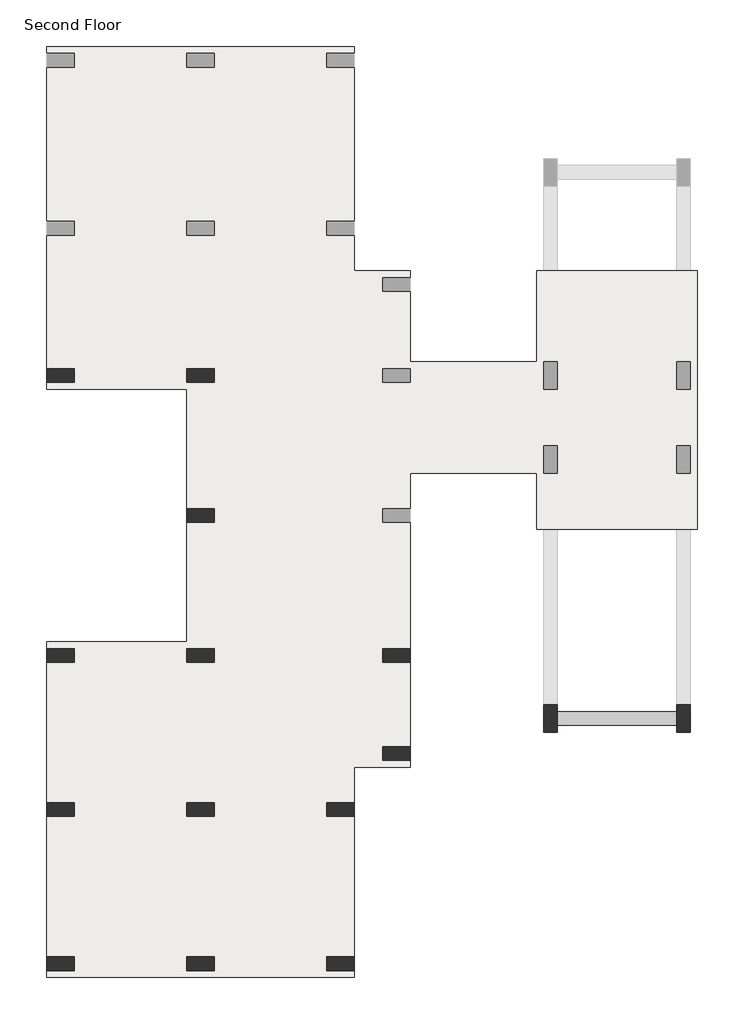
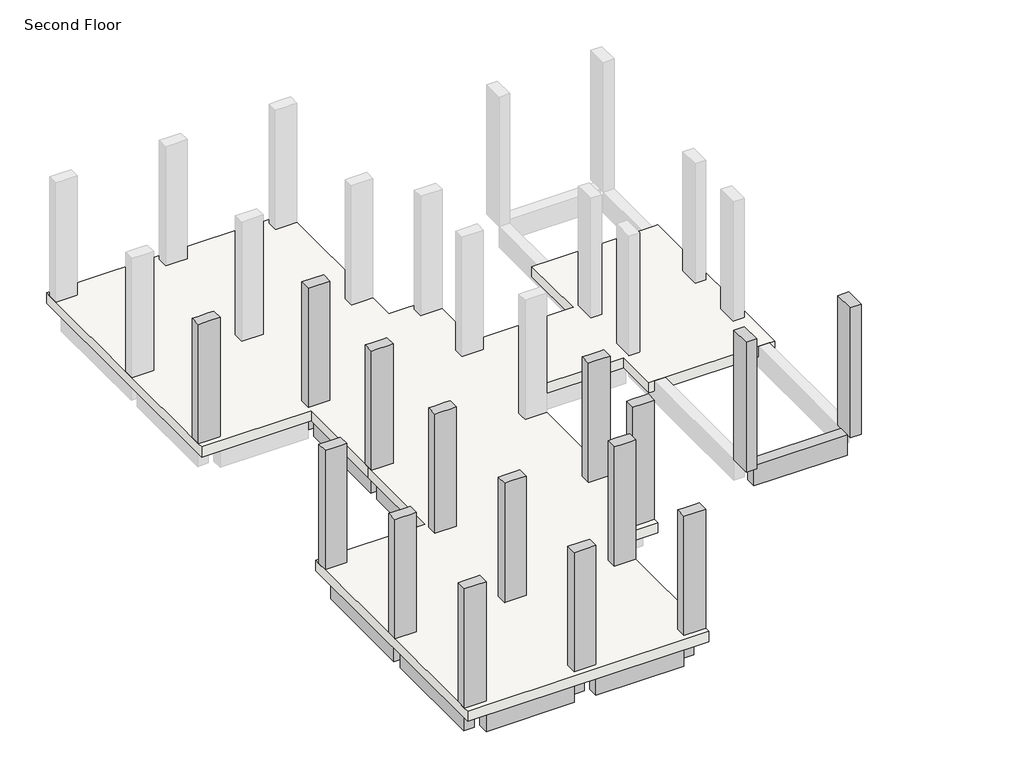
# One storey, part 1 of 2: 15 columns, 8 beams, 1 slab.
"""IFC4 building model written with IfcOpenShell, lengths in millimetres."""

from ifc_helpers import new_model, si_unit, frame, origin, place, context, project, spatial, polyline, outline, extrude, faceted_brep, element, save

model = new_model("IFC4")

# Units and contexts
model_context = context("Model", 3, world=origin())
ifc_project = project(units=[si_unit("LENGTHUNIT", "METRE", prefix="MILLI")], contexts=[model_context])

# Site, building, storey
site = spatial("IfcSite", under=ifc_project)
building = spatial("IfcBuilding", under=site)
storey = spatial("IfcBuildingStorey", under=building, Name="Second Floor", Elevation=3810.0)

# Beams
placement = place(None, origin())
element("IfcBeam", 1, ObjectType="M_Concrete-Rectangular Beam : 300 x 600mm", at=placement, inside=storey, context=model_context, shape_type="Brep", body=[
    faceted_brep([(-10964.7526929, 13007.19569, 3510.0), (-11114.7526929, 13007.19569, 3510.0), (-11114.7526929, 9649.59569, 3510.0), (-10814.7526929, 9649.59569, 3510.0), (-10814.7526929, 13007.19569, 3510.0), (-10814.7526929, 13157.19569, 3510.0), (-10964.7526929, 13157.19569, 3510.0), (-11114.7526929, 9649.59569, 2910.0), (-11114.7526929, 13007.19569, 2910.0), (-10814.7526929, 9649.59569, 2910.0), (-10814.7526929, 13007.19569, 2910.0), (-10814.7526929, 13007.19569, 3505.2), (-10814.7526929, 13157.19569, 3505.2), (-10964.7526929, 13007.19569, 3505.2), (-10964.7526929, 13157.19569, 3505.2)], [[[0, 1, 2, 3, 4, 5, 6]], [[7, 2, 1, 8]], [[9, 7, 8, 10]], [[3, 9, 10, 11, 12, 5, 4]], [[1, 0, 13, 11, 10, 8]], [[11, 13, 14, 12]], [[7, 9, 3, 2]], [[6, 5, 12, 14]], [[0, 6, 14, 13]]]),
    faceted_brep([(-10814.7526929, 9349.59569, 2910.0), (-11114.7526929, 9349.59569, 2910.0), (-11114.7526929, 9349.59569, 3510.0), (-10814.7526929, 9349.59569, 3510.0), (-10814.7526929, 6449.19569, 2910.0), (-10814.7526929, 6449.19569, 3510.0), (-11114.7526929, 6449.19569, 3510.0), (-11114.7526929, 6449.19569, 2910.0)], [[[0, 1, 2, 3]], [[4, 5, 6, 7]], [[2, 1, 7, 6]], [[0, 3, 5, 4]], [[1, 0, 4, 7]], [[3, 2, 6, 5]]]),
    faceted_brep([(-11114.7526929, 3401.19569, 2910.0), (-11114.7526929, 6149.19569, 2910.0), (-10814.7526929, 6149.19569, 2910.0), (-10814.7526929, 3401.19569, 2910.0), (-11114.7526929, 6149.19569, 3510.0), (-10814.7526929, 6149.19569, 3510.0), (-10814.7526929, 3401.19569, 3505.2), (-11114.7526929, 3401.19569, 3505.2), (-11114.7526929, 3101.19569, 3505.2), (-10814.7526929, 3101.19569, 3505.2), (-10814.7526929, 3101.19569, 2910.0), (-11114.7526929, 3101.19569, 2910.0), (-10814.7526929, 353.19569, 3505.2), (-11114.7526929, 353.19569, 3505.2), (-11114.7526929, 353.19569, 2910.0), (-10814.7526929, 353.19569, 2910.0), (-11114.7526929, 53.19569, 3505.2), (-10814.7526929, 53.19569, 3505.2), (-10814.7526929, 53.19569, 2910.0), (-11114.7526929, 53.19569, 2910.0), (-10814.7526929, -2999.60431, 3505.2), (-11114.7526929, -2999.60431, 3505.2), (-11114.7526929, -2999.60431, 2910.0), (-10814.7526929, -2999.60431, 2910.0), (-11114.7526929, -3299.60431, 3505.2), (-10814.7526929, -3299.60431, 3505.2), (-10814.7526929, -3299.60431, 2910.0), (-11114.7526929, -3299.60431, 2910.0), (-11114.7526929, -6352.40431, 2910.0), (-10814.7526929, -6352.40431, 2910.0), (-10814.7526929, -6352.40431, 3510.0), (-11114.7526929, -6352.40431, 3510.0), (-11114.7526929, 353.19569, 3510.0), (-11114.7526929, 53.19569, 3510.0), (-11114.7526929, -2999.60431, 3510.0), (-11114.7526929, -3299.60431, 3510.0), (-10814.7526929, -3299.60431, 3510.0), (-10814.7526929, -2999.60431, 3510.0), (-10814.7526929, 53.19569, 3510.0), (-10814.7526929, 353.19569, 3510.0)], [[[0, 1, 2, 3]], [[1, 4, 5, 2]], [[6, 7, 0, 3]], [[8, 9, 10, 11]], [[7, 6, 9, 8]], [[12, 13, 14, 15]], [[16, 17, 18, 19]], [[13, 12, 17, 16]], [[20, 21, 22, 23]], [[24, 25, 26, 27]], [[21, 20, 25, 24]], [[28, 29, 30, 31]], [[5, 4, 32, 33, 34, 35, 31, 30, 36, 37, 38, 39]], [[0, 7, 8, 11, 14, 13, 16, 19, 22, 21, 24, 27, 28, 31, 35, 34, 33, 32, 4, 1]], [[6, 3, 2, 5, 39, 38, 37, 36, 30, 29, 26, 25, 20, 23, 18, 17, 12, 15, 10, 9]], [[28, 27, 26, 29]], [[14, 11, 10, 15]], [[22, 19, 18, 23]]]),
])
element("IfcBeam", 2, ObjectType="M_Concrete-Rectangular Beam : 300 x 600mm", at=placement, inside=storey, context=model_context, shape_type="Brep", body=[
    faceted_brep([(-13862.7526929, -6502.40431, 3510.0), (-13862.7526929, -6352.40431, 3510.0), (-13862.7526929, -3299.60431, 3510.0), (-13862.7526929, -2999.60431, 3510.0), (-13862.7526929, 53.19569, 3510.0), (-13862.7526929, 203.19569, 3510.0), (-14012.7526929, 203.19569, 3510.0), (-14162.7526929, 203.19569, 3510.0), (-14162.7526929, -6502.40431, 3510.0), (-14012.7526929, -6502.40431, 3510.0), (-14162.7526929, 203.19569, 3505.2), (-14162.7526929, 53.19569, 3505.2), (-14162.7526929, 53.19569, 2910.0), (-14162.7526929, -2999.60431, 2910.0), (-14162.7526929, -2999.60431, 3505.2), (-14162.7526929, -3299.60431, 3505.2), (-14162.7526929, -3299.60431, 2910.0), (-14162.7526929, -6352.40431, 2910.0), (-14162.7526929, -6352.40431, 3505.2), (-14162.7526929, -6502.40431, 3505.2), (-13862.7526929, 53.19569, 2910.0), (-13862.7526929, -2999.60431, 2910.0), (-13862.7526929, -6502.40431, 3505.2), (-13862.7526929, -6352.40431, 3505.2), (-13862.7526929, -6352.40431, 2910.0), (-13862.7526929, -3299.60431, 2910.0), (-13862.7526929, -3299.60431, 3505.2), (-13862.7526929, -2999.60431, 3505.2), (-13862.7526929, 53.19569, 3505.2), (-13862.7526929, 203.19569, 3505.2), (-14012.7526929, 203.19569, 3505.2), (-14012.7526929, -6502.40431, 3505.2)], [[[0, 1, 2, 3, 4, 5, 6, 7, 8, 9]], [[8, 7, 10, 11, 12, 13, 14, 15, 16, 17, 18, 19]], [[12, 20, 21, 13]], [[5, 4, 3, 2, 1, 0, 22, 23, 24, 25, 26, 27, 21, 20, 28, 29]], [[11, 28, 20, 12]], [[28, 11, 10, 30, 29]], [[27, 14, 13, 21]], [[15, 26, 25, 16]], [[14, 27, 26, 15]], [[16, 25, 24, 17]], [[23, 18, 17, 24]], [[18, 23, 22, 31, 19]], [[7, 6, 5, 29, 30, 10]], [[0, 9, 8, 19, 31, 22]]]),
])
element("IfcBeam", 3, ObjectType="M_Concrete-Rectangular Beam : 300 x 600mm", at=placement, inside=storey, context=model_context, shape_type="Brep", body=[
    faceted_brep([(-13862.7526929, 203.19569, 3510.0), (-13862.7526929, 53.19569, 3510.0), (-11114.7526929, 53.19569, 3510.0), (-11114.7526929, 353.19569, 3510.0), (-14012.7526929, 353.19569, 3510.0), (-14012.7526929, 203.19569, 3510.0), (-13862.7526929, 53.19569, 3505.2), (-13712.7526929, 53.19569, 3505.2), (-13712.7526929, 53.19569, 2910.0), (-11264.7526929, 53.19569, 2910.0), (-11264.7526929, 53.19569, 3505.2), (-11114.7526929, 53.19569, 3505.2), (-13712.7526929, 353.19569, 2910.0), (-11264.7526929, 353.19569, 2910.0), (-13862.7526929, 203.19569, 3505.2), (-13712.7526929, 353.19569, 3505.2), (-14012.7526929, 203.19569, 3505.2), (-14012.7526929, 353.19569, 3505.2), (-11264.7526929, 353.19569, 3505.2), (-11114.7526929, 353.19569, 3505.2)], [[[0, 1, 2, 3, 4, 5]], [[1, 6, 7, 8, 9, 10, 11, 2]], [[8, 12, 13, 9]], [[1, 0, 14, 6]], [[7, 15, 12, 8]], [[15, 7, 6, 14, 16, 17]], [[18, 10, 9, 13]], [[10, 18, 19, 11]], [[3, 2, 11, 19]], [[12, 15, 17, 4, 3, 19, 18, 13]], [[5, 4, 17, 16]], [[0, 5, 16, 14]]]),
    faceted_brep([(-10664.7526929, 353.19569, 2910.0), (-10664.7526929, 353.19569, 3505.2), (-10814.7526929, 353.19569, 3505.2), (-10814.7526929, 353.19569, 3510.0), (-6847.5526929, 353.19569, 3510.0), (-6847.5526929, 353.19569, 3505.2), (-6997.5526929, 353.19569, 3505.2), (-6997.5526929, 353.19569, 2910.0), (-10664.7526929, 53.19569, 3505.2), (-10664.7526929, 53.19569, 2910.0), (-6997.5526929, 53.19569, 2910.0), (-6997.5526929, 53.19569, 3505.2), (-6847.5526929, 53.19569, 3505.2), (-10814.7526929, 53.19569, 3510.0), (-10814.7526929, 53.19569, 3505.2), (-6847.5526929, 53.19569, 3510.0)], [[[0, 1, 2, 3, 4, 5, 6, 7]], [[8, 1, 0, 9]], [[9, 0, 7, 10]], [[6, 11, 10, 7]], [[11, 6, 5, 12]], [[13, 3, 2, 14]], [[3, 13, 15, 4]], [[8, 9, 10, 11, 12, 15, 13, 14]], [[1, 8, 14, 2]], [[5, 4, 15, 12]]]),
])
element("IfcBeam", 4, ObjectType="M_Concrete-Rectangular Beam : 300 x 600mm", at=placement, inside=storey, context=model_context, shape_type="Brep", body=[
    faceted_brep([(-6847.5526929, -1930.40431, 3510.0), (-6847.5526929, -1780.40431, 3510.0), (-8066.7526929, -1780.40431, 3510.0), (-8066.7526929, -2080.40431, 3510.0), (-7766.7526929, -2080.40431, 3510.0), (-6697.5526929, -2080.40431, 3510.0), (-6697.5526929, -1930.40431, 3510.0), (-8066.7526929, -1780.40431, 2910.0), (-6847.5526929, -1780.40431, 3505.2), (-6997.5526929, -1780.40431, 3505.2), (-6997.5526929, -1780.40431, 2910.0), (-8066.7526929, -2080.40431, 2910.0), (-6997.5526929, -2080.40431, 2910.0), (-7766.7526929, -2080.40431, 2910.0), (-6997.5526929, -2080.40431, 3505.2), (-6697.5526929, -2080.40431, 3505.2), (-6847.5526929, -1930.40431, 3505.2), (-6697.5526929, -1930.40431, 3505.2)], [[[0, 1, 2, 3, 4, 5, 6]], [[7, 2, 1, 8, 9, 10]], [[11, 7, 10, 12, 13]], [[5, 4, 3, 11, 13, 12, 14, 15]], [[1, 0, 16, 8]], [[9, 14, 12, 10]], [[14, 9, 8, 16, 17, 15]], [[6, 5, 15, 17]], [[3, 2, 7, 11]], [[0, 6, 17, 16]]]),
])
element("IfcBeam", 5, ObjectType="M_Concrete-Rectangular Beam : 300 x 600mm", at=placement, inside=storey, context=model_context, shape_type="Brep", body=[
    faceted_brep([(-7766.7526929, -2080.40431, 3510.0), (-8066.7526929, -2080.40431, 3510.0), (-8066.7526929, -2999.60431, 3510.0), (-8066.7526929, -3299.60431, 3510.0), (-8066.7526929, -6352.40431, 3510.0), (-8066.7526929, -6502.40431, 3510.0), (-7916.7526929, -6502.40431, 3510.0), (-7766.7526929, -6502.40431, 3510.0), (-8066.7526929, -2999.60431, 2910.0), (-8066.7526929, -2999.60431, 3505.2), (-8066.7526929, -3299.60431, 3505.2), (-8066.7526929, -3299.60431, 2910.0), (-8066.7526929, -6352.40431, 2910.0), (-8066.7526929, -6352.40431, 3505.2), (-8066.7526929, -6502.40431, 3505.2), (-8066.7526929, -2080.40431, 2910.0), (-7766.7526929, -2080.40431, 2910.0), (-7766.7526929, -2999.60431, 2910.0), (-7766.7526929, -6502.40431, 3505.2), (-7766.7526929, -6352.40431, 3505.2), (-7766.7526929, -6352.40431, 2910.0), (-7766.7526929, -3299.60431, 2910.0), (-7766.7526929, -3299.60431, 3505.2), (-7766.7526929, -2999.60431, 3505.2), (-7916.7526929, -6502.40431, 3505.2)], [[[0, 1, 2, 3, 4, 5, 6, 7]], [[8, 9, 10, 11, 12, 13, 14, 5, 4, 3, 2, 1, 15]], [[15, 16, 17, 8]], [[16, 0, 7, 18, 19, 20, 21, 22, 23, 17]], [[1, 0, 16, 15]], [[23, 9, 8, 17]], [[10, 22, 21, 11]], [[9, 23, 22, 10]], [[11, 21, 20, 12]], [[19, 13, 12, 20]], [[13, 19, 18, 24, 14]], [[7, 6, 5, 14, 24, 18]]]),
])
element("IfcBeam", 6, ObjectType="M_Concrete-Rectangular Beam : 300 x 600mm", at=placement, inside=storey, context=model_context, shape_type="Brep", body=[
    faceted_brep([(-14012.7526929, -6652.40431, 3510.0), (-7916.7526929, -6652.40431, 3510.0), (-7916.7526929, -6502.40431, 3510.0), (-8066.7526929, -6502.40431, 3510.0), (-8066.7526929, -6352.40431, 3510.0), (-10814.7526929, -6352.40431, 3510.0), (-11114.7526929, -6352.40431, 3510.0), (-13862.7526929, -6352.40431, 3510.0), (-13862.7526929, -6502.40431, 3510.0), (-14012.7526929, -6502.40431, 3510.0), (-13862.7526929, -6352.40431, 3505.2), (-8066.7526929, -6352.40431, 3505.2), (-8216.7526929, -6352.40431, 3505.2), (-8216.7526929, -6352.40431, 2910.0), (-10664.7526929, -6352.40431, 2910.0), (-10664.7526929, -6352.40431, 3505.2), (-11264.7526929, -6352.40431, 3505.2), (-11264.7526929, -6352.40431, 2910.0), (-13712.7526929, -6352.40431, 2910.0), (-13712.7526929, -6352.40431, 3505.2), (-10664.7526929, -6652.40431, 2910.0), (-8216.7526929, -6652.40431, 2910.0), (-14012.7526929, -6652.40431, 3505.2), (-13712.7526929, -6652.40431, 3505.2), (-13712.7526929, -6652.40431, 2910.0), (-11264.7526929, -6652.40431, 2910.0), (-11264.7526929, -6652.40431, 3505.2), (-10664.7526929, -6652.40431, 3505.2), (-8216.7526929, -6652.40431, 3505.2), (-7916.7526929, -6652.40431, 3505.2), (-13862.7526929, -6502.40431, 3505.2), (-8066.7526929, -6502.40431, 3505.2), (-14012.7526929, -6502.40431, 3505.2), (-7916.7526929, -6502.40431, 3505.2)], [[[0, 1, 2, 3, 4, 5, 6, 7, 8, 9]], [[10, 7, 6, 5, 4, 11, 12, 13, 14, 15, 16, 17, 18, 19]], [[20, 14, 13, 21]], [[1, 0, 22, 23, 24, 25, 26, 27, 20, 21, 28, 29]], [[8, 7, 10, 30]], [[4, 3, 31, 11]], [[23, 19, 18, 24]], [[19, 23, 22, 32, 30, 10]], [[27, 15, 14, 20]], [[16, 26, 25, 17]], [[15, 27, 26, 16]], [[24, 18, 17, 25]], [[12, 28, 21, 13]], [[28, 12, 11, 31, 33, 29]], [[0, 9, 32, 22]], [[2, 1, 29, 33]], [[9, 8, 30, 32]], [[3, 2, 33, 31]]]),
])
element("IfcBeam", 7, ObjectType="M_Concrete-Rectangular Beam : 300 x 600mm", at=placement, inside=storey, context=model_context, shape_type="SweptSolid", body=[
    extrude(outline(polyline([(3510.0, -13862.7526929), (3505.2, -13862.7526929), (3505.2, -13712.7526929), (2910.0, -13712.7526929), (2910.0, -11264.7526929), (3505.2, -11264.7526929), (3505.2, -11114.7526929), (3510.0, -11114.7526929), (3510.0, -13862.7526929)])), frame((0.0, -3299.60431, 0.0), z_axis=(0.0, 1.0, 0.0), x_axis=(0.0, 0.0, 1.0)), (0.0, 0.0, 1.0), 300.0),
    extrude(outline(polyline([(3505.2, -10664.7526929), (2910.0, -10664.7526929), (2910.0, -8216.7526929), (3505.2, -8216.7526929), (3505.2, -8066.7526929), (3510.0, -8066.7526929), (3510.0, -10814.7526929), (3505.2, -10814.7526929), (3505.2, -10664.7526929)])), frame((0.0, -3299.60431, 0.0), z_axis=(0.0, 1.0, 0.0), x_axis=(0.0, 0.0, 1.0)), (0.0, 0.0, 1.0), 300.0),
])
element("IfcBeam", 8, ObjectType="M_Concrete-Rectangular Beam : 300 x 600mm", at=placement, inside=storey, context=model_context, shape_type="SweptSolid", body=[
    extrude(outline(polyline([(-3194.7526929, -1318.40431), (-3194.7526929, -1018.40431), (-599.1526929, -1018.40431), (-599.1526929, -1318.40431), (-3194.7526929, -1318.40431)])), frame((0.0, 0.0, 3210.0), z_axis=(0.0, 0.0, 1.0), x_axis=(1.0, 0.0, 0.0)), (0.0, 0.0, 1.0), 600.0),
])

# Columns
element("IfcColumn", 9, ObjectType="M_Concrete-Rectangular-Column : 300 x 600mm", at=placement, inside=storey, context=model_context, shape_type="Brep", body=[
    faceted_brep([(-11264.7526929, 6449.19569, 3810.0), (-10664.7526929, 6449.19569, 3810.0), (-10664.7526929, 6149.19569, 3810.0), (-11264.7526929, 6149.19569, 3810.0), (-11264.7526929, 6449.19569, 7315.2), (-10664.7526929, 6449.19569, 7315.2), (-10664.7526929, 6449.19569, 6720.0), (-11264.7526929, 6449.19569, 6720.0), (-10664.7526929, 6149.19569, 7315.2), (-10664.7526929, 6149.19569, 6720.0), (-11264.7526929, 6149.19569, 7315.2), (-11264.7526929, 6149.19569, 6720.0)], [[[0, 1, 2, 3]], [[4, 5, 6, 1, 0, 7]], [[5, 8, 9, 2, 1, 6]], [[8, 10, 11, 3, 2, 9]], [[10, 4, 7, 0, 3, 11]], [[4, 10, 8, 5]]]),
])
element("IfcColumn", 10, ObjectType="M_Concrete-Rectangular-Column : 300 x 600mm", at=placement, inside=storey, context=model_context, shape_type="Brep", body=[
    faceted_brep([(-14312.7526929, 6449.19569, 3810.0), (-13712.7526929, 6449.19569, 3810.0), (-13712.7526929, 6149.19569, 3810.0), (-14312.7526929, 6149.19569, 3810.0), (-14312.7526929, 6449.19569, 7315.2), (-14162.7526929, 6449.19569, 7315.2), (-13862.7526929, 6449.19569, 7315.2), (-13712.7526929, 6449.19569, 7315.2), (-13712.7526929, 6449.19569, 6720.0), (-13712.7526929, 6149.19569, 7315.2), (-13712.7526929, 6149.19569, 6720.0), (-14012.7526929, 6149.19569, 7315.2), (-14312.7526929, 6149.19569, 7315.2)], [[[0, 1, 2, 3]], [[4, 5, 6, 7, 8, 1, 0]], [[7, 9, 10, 2, 1, 8]], [[9, 11, 12, 3, 2, 10]], [[12, 4, 0, 3]], [[4, 12, 11, 9, 7, 6, 5]]]),
])
element("IfcColumn", 11, ObjectType="M_Concrete-Rectangular-Column : 300 x 600mm", at=placement, inside=storey, context=model_context, shape_type="Brep", body=[
    faceted_brep([(-11264.7526929, 3401.19569, 3810.0), (-10664.7526929, 3401.19569, 3810.0), (-10664.7526929, 3101.19569, 3810.0), (-11264.7526929, 3101.19569, 3810.0), (-11264.7526929, 3251.19569, 3810.0), (-11264.7526929, 3401.19569, 7315.2), (-11114.7526929, 3401.19569, 7315.2), (-10814.7526929, 3401.19569, 7315.2), (-10664.7526929, 3401.19569, 7315.2), (-10664.7526929, 3101.19569, 7315.2), (-10814.7526929, 3101.19569, 7315.2), (-11114.7526929, 3101.19569, 7315.2), (-11264.7526929, 3101.19569, 7315.2)], [[[0, 1, 2, 3, 4]], [[5, 6, 7, 8, 1, 0]], [[8, 9, 2, 1]], [[9, 10, 11, 12, 3, 2]], [[12, 5, 0, 4, 3]], [[5, 12, 11, 10, 9, 8, 7, 6]]]),
])
element("IfcColumn", 12, ObjectType="M_Concrete-Rectangular-Column : 300 x 600mm", at=placement, inside=storey, context=model_context, shape_type="Brep", body=[
    faceted_brep([(-14312.7526929, 353.19569, 3810.0), (-13712.7526929, 353.19569, 3810.0), (-13712.7526929, 53.19569, 3810.0), (-14312.7526929, 53.19569, 3810.0), (-14312.7526929, 353.19569, 7315.2), (-14012.7526929, 353.19569, 7315.2), (-13712.7526929, 353.19569, 7315.2), (-13712.7526929, 353.19569, 6720.0), (-13712.7526929, 53.19569, 7315.2), (-13712.7526929, 53.19569, 6720.0), (-13862.7526929, 53.19569, 7315.2), (-14162.7526929, 53.19569, 7315.2), (-14312.7526929, 53.19569, 7315.2)], [[[0, 1, 2, 3]], [[4, 5, 6, 7, 1, 0]], [[6, 8, 9, 2, 1, 7]], [[8, 10, 11, 12, 3, 2, 9]], [[12, 4, 0, 3]], [[4, 12, 11, 10, 8, 6, 5]]]),
])
element("IfcColumn", 13, ObjectType="M_Concrete-Rectangular-Column : 300 x 600mm", at=placement, inside=storey, context=model_context, shape_type="Brep", body=[
    faceted_brep([(-11264.7526929, 353.19569, 3810.0), (-10664.7526929, 353.19569, 3810.0), (-10664.7526929, 53.19569, 3810.0), (-11264.7526929, 53.19569, 3810.0), (-11264.7526929, 353.19569, 7315.2), (-11114.7526929, 353.19569, 7315.2), (-10814.7526929, 353.19569, 7315.2), (-10664.7526929, 353.19569, 7315.2), (-10664.7526929, 353.19569, 6720.0), (-11264.7526929, 353.19569, 6720.0), (-10664.7526929, 53.19569, 7315.2), (-10664.7526929, 53.19569, 6720.0), (-10814.7526929, 53.19569, 7315.2), (-11114.7526929, 53.19569, 7315.2), (-11264.7526929, 53.19569, 7315.2), (-11264.7526929, 53.19569, 6720.0)], [[[0, 1, 2, 3]], [[4, 5, 6, 7, 8, 1, 0, 9]], [[7, 10, 11, 2, 1, 8]], [[10, 12, 13, 14, 15, 3, 2, 11]], [[14, 4, 9, 0, 3, 15]], [[4, 14, 13, 12, 10, 7, 6, 5]]]),
])
element("IfcColumn", 14, ObjectType="M_Concrete-Rectangular-Column : 300 x 600mm", at=placement, inside=storey, context=model_context, shape_type="Brep", body=[
    faceted_brep([(-6997.5526929, 353.19569, 3810.0), (-6397.5526929, 353.19569, 3810.0), (-6397.5526929, 53.19569, 3810.0), (-6997.5526929, 53.19569, 3810.0), (-6997.5526929, 353.19569, 7315.2), (-6847.5526929, 353.19569, 7315.2), (-6547.5526929, 353.19569, 7315.2), (-6397.5526929, 353.19569, 7315.2), (-6997.5526929, 353.19569, 6720.0), (-6397.5526929, 53.19569, 7315.2), (-6547.5526929, 53.19569, 7315.2), (-6847.5526929, 53.19569, 7315.2), (-6997.5526929, 53.19569, 7315.2), (-6997.5526929, 53.19569, 6720.0)], [[[0, 1, 2, 3]], [[4, 5, 6, 7, 1, 0, 8]], [[7, 9, 2, 1]], [[9, 10, 11, 12, 13, 3, 2]], [[12, 4, 8, 0, 3, 13]], [[4, 12, 11, 10, 9, 7, 6, 5]]]),
])
element("IfcColumn", 15, ObjectType="M_Concrete-Rectangular-Column : 300 x 600mm", at=placement, inside=storey, context=model_context, shape_type="Brep", body=[
    faceted_brep([(-6997.5526929, -1780.40431, 3810.0), (-6397.5526929, -1780.40431, 3810.0), (-6397.5526929, -2080.40431, 3810.0), (-6997.5526929, -2080.40431, 3810.0), (-6997.5526929, -1780.40431, 7315.2), (-6847.5526929, -1780.40431, 7315.2), (-6547.5526929, -1780.40431, 7315.2), (-6397.5526929, -1780.40431, 7315.2), (-6997.5526929, -1780.40431, 6720.0), (-6397.5526929, -2080.40431, 7315.2), (-6697.5526929, -2080.40431, 7315.2), (-6997.5526929, -2080.40431, 7315.2), (-6997.5526929, -2080.40431, 6720.0)], [[[0, 1, 2, 3]], [[4, 5, 6, 7, 1, 0, 8]], [[7, 9, 2, 1]], [[9, 10, 11, 12, 3, 2]], [[11, 4, 8, 0, 3, 12]], [[4, 11, 10, 9, 7, 6, 5]]]),
])
element("IfcColumn", 16, ObjectType="M_Concrete-Rectangular-Column : 300 x 600mm", at=placement, inside=storey, context=model_context, shape_type="Brep", body=[
    faceted_brep([(-14312.7526929, -2999.60431, 3810.0), (-13712.7526929, -2999.60431, 3810.0), (-13712.7526929, -3299.60431, 3810.0), (-14312.7526929, -3299.60431, 3810.0), (-14312.7526929, -2999.60431, 7315.2), (-14162.7526929, -2999.60431, 7315.2), (-13862.7526929, -2999.60431, 7315.2), (-13712.7526929, -2999.60431, 7315.2), (-13712.7526929, -2999.60431, 6720.0), (-13712.7526929, -3299.60431, 7315.2), (-13712.7526929, -3299.60431, 6720.0), (-13862.7526929, -3299.60431, 7315.2), (-14162.7526929, -3299.60431, 7315.2), (-14312.7526929, -3299.60431, 7315.2)], [[[0, 1, 2, 3]], [[4, 5, 6, 7, 8, 1, 0]], [[7, 9, 10, 2, 1, 8]], [[9, 11, 12, 13, 3, 2, 10]], [[13, 4, 0, 3]], [[4, 13, 12, 11, 9, 7, 6, 5]]]),
])
element("IfcColumn", 17, ObjectType="M_Concrete-Rectangular-Column : 300 x 600mm", at=placement, inside=storey, context=model_context, shape_type="Brep", body=[
    faceted_brep([(-11264.7526929, -2999.60431, 3810.0), (-10664.7526929, -2999.60431, 3810.0), (-10664.7526929, -3299.60431, 3810.0), (-11264.7526929, -3299.60431, 3810.0), (-11264.7526929, -2999.60431, 7315.2), (-11114.7526929, -2999.60431, 7315.2), (-10814.7526929, -2999.60431, 7315.2), (-10664.7526929, -2999.60431, 7315.2), (-10664.7526929, -2999.60431, 6720.0), (-11264.7526929, -2999.60431, 6720.0), (-10664.7526929, -3299.60431, 7315.2), (-10664.7526929, -3299.60431, 6720.0), (-10814.7526929, -3299.60431, 7315.2), (-11114.7526929, -3299.60431, 7315.2), (-11264.7526929, -3299.60431, 7315.2), (-11264.7526929, -3299.60431, 6720.0)], [[[0, 1, 2, 3]], [[4, 5, 6, 7, 8, 1, 0, 9]], [[7, 10, 11, 2, 1, 8]], [[10, 12, 13, 14, 15, 3, 2, 11]], [[14, 4, 9, 0, 3, 15]], [[4, 14, 13, 12, 10, 7, 6, 5]]]),
])
element("IfcColumn", 18, ObjectType="M_Concrete-Rectangular-Column : 300 x 600mm", at=placement, inside=storey, context=model_context, shape_type="Brep", body=[
    faceted_brep([(-8216.7526929, -2999.60431, 3810.0), (-7616.7526929, -2999.60431, 3810.0), (-7616.7526929, -3299.60431, 3810.0), (-8216.7526929, -3299.60431, 3810.0), (-8216.7526929, -2999.60431, 7315.2), (-8066.7526929, -2999.60431, 7315.2), (-7766.7526929, -2999.60431, 7315.2), (-7616.7526929, -2999.60431, 7315.2), (-8216.7526929, -2999.60431, 6720.0), (-7616.7526929, -3299.60431, 7315.2), (-7766.7526929, -3299.60431, 7315.2), (-8066.7526929, -3299.60431, 7315.2), (-8216.7526929, -3299.60431, 7315.2), (-8216.7526929, -3299.60431, 6720.0)], [[[0, 1, 2, 3]], [[4, 5, 6, 7, 1, 0, 8]], [[7, 9, 2, 1]], [[9, 10, 11, 12, 13, 3, 2]], [[12, 4, 8, 0, 3, 13]], [[4, 12, 11, 10, 9, 7, 6, 5]]]),
])
element("IfcColumn", 19, ObjectType="M_Concrete-Rectangular-Column : 300 x 600mm", at=placement, inside=storey, context=model_context, shape_type="Brep", body=[
    faceted_brep([(-14312.7526929, -6352.40431, 3810.0), (-13712.7526929, -6352.40431, 3810.0), (-13712.7526929, -6652.40431, 3810.0), (-14312.7526929, -6652.40431, 3810.0), (-14312.7526929, -6352.40431, 7315.2), (-14162.7526929, -6352.40431, 7315.2), (-13862.7526929, -6352.40431, 7315.2), (-13712.7526929, -6352.40431, 7315.2), (-13712.7526929, -6352.40431, 6720.0), (-13712.7526929, -6652.40431, 7315.2), (-13712.7526929, -6652.40431, 6720.0), (-14012.7526929, -6652.40431, 7315.2), (-14312.7526929, -6652.40431, 7315.2)], [[[0, 1, 2, 3]], [[4, 5, 6, 7, 8, 1, 0]], [[7, 9, 10, 2, 1, 8]], [[9, 11, 12, 3, 2, 10]], [[12, 4, 0, 3]], [[4, 12, 11, 9, 7, 6, 5]]]),
])
element("IfcColumn", 20, ObjectType="M_Concrete-Rectangular-Column : 300 x 600mm", at=placement, inside=storey, context=model_context, shape_type="Brep", body=[
    faceted_brep([(-11264.7526929, -6352.40431, 3810.0), (-10664.7526929, -6352.40431, 3810.0), (-10664.7526929, -6652.40431, 3810.0), (-11264.7526929, -6652.40431, 3810.0), (-11264.7526929, -6352.40431, 7315.2), (-10664.7526929, -6352.40431, 7315.2), (-10664.7526929, -6352.40431, 6720.0), (-11264.7526929, -6352.40431, 6720.0), (-10664.7526929, -6652.40431, 7315.2), (-10664.7526929, -6652.40431, 6720.0), (-11264.7526929, -6652.40431, 7315.2), (-11264.7526929, -6652.40431, 6720.0)], [[[0, 1, 2, 3]], [[4, 5, 6, 1, 0, 7]], [[5, 8, 9, 2, 1, 6]], [[8, 10, 11, 3, 2, 9]], [[10, 4, 7, 0, 3, 11]], [[4, 10, 8, 5]]]),
])
element("IfcColumn", 21, ObjectType="M_Concrete-Rectangular-Column : 300 x 600mm", at=placement, inside=storey, context=model_context, shape_type="Brep", body=[
    faceted_brep([(-8216.7526929, -6352.40431, 3810.0), (-7616.7526929, -6352.40431, 3810.0), (-7616.7526929, -6652.40431, 3810.0), (-8216.7526929, -6652.40431, 3810.0), (-8216.7526929, -6352.40431, 7315.2), (-8066.7526929, -6352.40431, 7315.2), (-7766.7526929, -6352.40431, 7315.2), (-7616.7526929, -6352.40431, 7315.2), (-8216.7526929, -6352.40431, 6720.0), (-7616.7526929, -6652.40431, 7315.2), (-7916.7526929, -6652.40431, 7315.2), (-8216.7526929, -6652.40431, 7315.2), (-8216.7526929, -6652.40431, 6720.0)], [[[0, 1, 2, 3]], [[4, 5, 6, 7, 1, 0, 8]], [[7, 9, 2, 1]], [[9, 10, 11, 12, 3, 2]], [[11, 4, 8, 0, 3, 12]], [[4, 11, 10, 9, 7, 6, 5]]]),
])
element("IfcColumn", 22, ObjectType="M_Concrete-Rectangular-Column : 300 x 600mm", at=placement, inside=storey, context=model_context, shape_type="SweptSolid", body=[
    extrude(outline(polyline([(-3494.7526929, -1468.40431), (-3494.7526929, -868.40431), (-3194.7526929, -868.40431), (-3194.7526929, -1468.40431), (-3494.7526929, -1468.40431)])), frame((0.0, 0.0, 3810.0), z_axis=(0.0, 0.0, 1.0), x_axis=(1.0, 0.0, 0.0)), (0.0, 0.0, 1.0), 3810.0),
])
element("IfcColumn", 23, ObjectType="M_Concrete-Rectangular-Column : 300 x 600mm", at=placement, inside=storey, context=model_context, shape_type="SweptSolid", body=[
    extrude(outline(polyline([(-599.1526929, -1468.40431), (-599.1526929, -868.40431), (-299.1526929, -868.40431), (-299.1526929, -1468.40431), (-599.1526929, -1468.40431)])), frame((0.0, 0.0, 3810.0), z_axis=(0.0, 0.0, 1.0), x_axis=(1.0, 0.0, 0.0)), (0.0, 0.0, 1.0), 3810.0),
])

# Slab
element("IfcSlab", 24, ObjectType="Generic 300mm", at=placement, inside=storey, context=model_context, shape_type="Brep", body=[
    faceted_brep([(-7616.7526929, 13457.19569, 3510.0), (-7616.7526929, 8580.39569, 3510.0), (-6397.5526929, 8580.39569, 3510.0), (-6397.5526929, 6599.19569, 3510.0), (-3644.7526929, 6599.19569, 3510.0), (-3644.7526929, 8580.39569, 3510.0), (-3494.7526929, 8580.39569, 3510.0), (-3194.7526929, 8580.39569, 3510.0), (-599.1526929, 8580.39569, 3510.0), (-299.1526929, 8580.39569, 3510.0), (-149.1526929, 8580.39569, 3510.0), (-149.1526929, 2951.19569, 3510.0), (-299.1526929, 2951.19569, 3510.0), (-599.1526929, 2951.19569, 3510.0), (-3194.7526929, 2951.19569, 3510.0), (-3494.7526929, 2951.19569, 3510.0), (-3644.7526929, 2951.19569, 3510.0), (-3644.7526929, 4170.39569, 3510.0), (-6397.5526929, 4170.39569, 3510.0), (-6397.5526929, -2230.40431, 3510.0), (-7616.7526929, -2230.40431, 3510.0), (-7616.7526929, -6802.40431, 3510.0), (-14312.7526929, -6802.40431, 3510.0), (-14312.7526929, 503.19569, 3510.0), (-11264.7526929, 503.19569, 3510.0), (-11264.7526929, 3251.19569, 3510.0), (-11264.7526929, 5999.19569, 3510.0), (-14312.7526929, 5999.19569, 3510.0), (-14312.7526929, 13457.19569, 3510.0), (-7616.7526929, 13457.19569, 3810.0), (-14312.7526929, 13457.19569, 3810.0), (-14312.7526929, 13307.19569, 3810.0), (-14312.7526929, 13007.19569, 3810.0), (-14312.7526929, 9649.59569, 3810.0), (-14312.7526929, 9349.59569, 3810.0), (-14312.7526929, 6449.19569, 3810.0), (-14312.7526929, 6149.19569, 3810.0), (-14312.7526929, 5999.19569, 3810.0), (-11264.7526929, 5999.19569, 3810.0), (-11264.7526929, 3401.19569, 3810.0), (-11264.7526929, 3251.19569, 3810.0), (-11264.7526929, 3101.19569, 3810.0), (-11264.7526929, 503.19569, 3810.0), (-14312.7526929, 503.19569, 3810.0), (-14312.7526929, 353.19569, 3810.0), (-14312.7526929, 53.19569, 3810.0), (-14312.7526929, -2999.60431, 3810.0), (-14312.7526929, -3299.60431, 3810.0), (-14312.7526929, -6352.40431, 3810.0), (-14312.7526929, -6652.40431, 3810.0), (-14312.7526929, -6802.40431, 3810.0), (-7616.7526929, -6802.40431, 3810.0), (-7616.7526929, -6652.40431, 3810.0), (-7616.7526929, -6352.40431, 3810.0), (-7616.7526929, -3299.60431, 3810.0), (-7616.7526929, -2999.60431, 3810.0), (-7616.7526929, -2230.40431, 3810.0), (-6397.5526929, -2230.40431, 3810.0), (-6397.5526929, -2080.40431, 3810.0), (-6397.5526929, -1780.40431, 3810.0), (-6397.5526929, 53.19569, 3810.0), (-6397.5526929, 353.19569, 3810.0), (-6397.5526929, 3101.19569, 3810.0), (-6397.5526929, 3401.19569, 3810.0), (-6397.5526929, 4170.39569, 3810.0), (-3644.7526929, 4170.39569, 3810.0), (-3644.7526929, 2951.19569, 3810.0), (-3494.7526929, 2951.19569, 3810.0), (-3194.7526929, 2951.19569, 3810.0), (-599.1526929, 2951.19569, 3810.0), (-299.1526929, 2951.19569, 3810.0), (-149.1526929, 2951.19569, 3810.0), (-149.1526929, 8580.39569, 3810.0), (-299.1526929, 8580.39569, 3810.0), (-599.1526929, 8580.39569, 3810.0), (-3194.7526929, 8580.39569, 3810.0), (-3494.7526929, 8580.39569, 3810.0), (-3644.7526929, 8580.39569, 3810.0), (-3644.7526929, 6599.19569, 3810.0), (-6397.5526929, 6599.19569, 3810.0), (-6397.5526929, 8130.39569, 3810.0), (-6397.5526929, 8430.39569, 3810.0), (-6397.5526929, 8580.39569, 3810.0), (-7616.7526929, 8580.39569, 3810.0), (-7616.7526929, 9349.59569, 3810.0), (-7616.7526929, 9649.59569, 3810.0), (-7616.7526929, 13007.19569, 3810.0), (-7616.7526929, 13307.19569, 3810.0)], [[[0, 1, 2, 3, 4, 5, 6, 7, 8, 9, 10, 11, 12, 13, 14, 15, 16, 17, 18, 19, 20, 21, 22, 23, 24, 25, 26, 27, 28]], [[29, 30, 31, 32, 33, 34, 35, 36, 37, 38, 39, 40, 41, 42, 43, 44, 45, 46, 47, 48, 49, 50, 51, 52, 53, 54, 55, 56, 57, 58, 59, 60, 61, 62, 63, 64, 65, 66, 67, 68, 69, 70, 71, 72, 73, 74, 75, 76, 77, 78, 79, 80, 81, 82, 83, 84, 85, 86, 87]], [[1, 0, 29, 87, 86, 85, 84, 83]], [[2, 1, 83, 82]], [[3, 2, 82, 81, 80, 79]], [[4, 3, 79, 78]], [[5, 4, 78, 77]], [[8, 7, 6, 5, 77, 76, 75, 74]], [[10, 9, 8, 74, 73, 72]], [[11, 10, 72, 71]], [[16, 15, 14, 13, 12, 11, 71, 70, 69, 68, 67, 66]], [[17, 16, 66, 65]], [[18, 17, 65, 64]], [[19, 18, 64, 63, 62, 61, 60, 59, 58, 57]], [[20, 19, 57, 56]], [[21, 20, 56, 55, 54, 53, 52, 51]], [[22, 21, 51, 50]], [[23, 22, 50, 49, 48, 47, 46, 45, 44, 43]], [[24, 23, 43, 42]], [[25, 24, 42, 41, 40]], [[26, 25, 40, 39, 38]], [[27, 26, 38, 37]], [[28, 27, 37, 36, 35, 34, 33, 32, 31, 30]], [[0, 28, 30, 29]]]),
])

save(model, "model.ifc")
